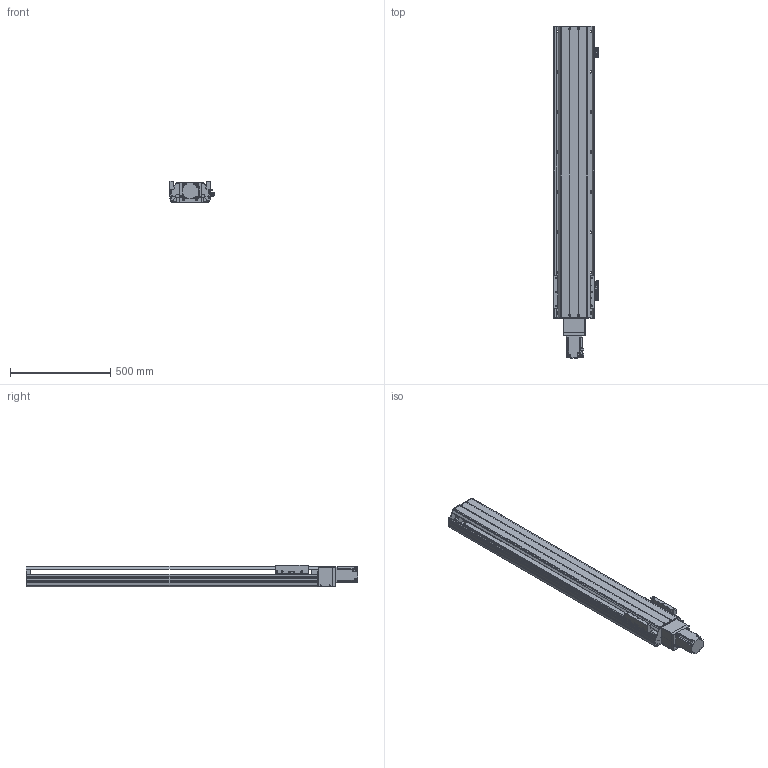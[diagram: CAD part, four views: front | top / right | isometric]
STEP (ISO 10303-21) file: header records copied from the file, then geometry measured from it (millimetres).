
FILE_DESCRIPTION(/* description */ ('MANUFACTURE'),/* implementation_level */ '2;1');
FILE_NAME(/* name */ '\\192.168.0.160\disk1\HAN SHIN Master\B-설계부문\C-표준\B-2024년\BC02-표준도면\+로봇 개선표준도면\홈페이지 표준 도면\홈페이지 최종 작업 폴더\3D\HR\HR200\HG200직렬\HR200-S70-N-1200-R10.stp',/* time_stamp */ '2025-01-18T10:22:50+09:00',/* author */ ('user'),/* organization */ (''),/* preprocessor_version */ 'ST-DEVELOPER v18.1',/* originating_system */ 'Autodesk Inventor 2022',/* authorisation */ 'LIP');
FILE_SCHEMA (('AUTOMOTIVE_DESIGN { 1 0 10303 214 3 1 1 }'));
Length unit declared in the file: millimetre
Products named in the file (16): HR200-S70-W0500-R10; HR200 S BASE-개선; HR180 FRONT BLOCK; HR180 FRONT BLOCK_1; HR200 FRONT COVER; HR120 STOPPER; HR200 SENSOR DOG; HR200 S UPCOVER; HR200 FRONT COVER_1; HR200 TABLE (W,N); COUPLING COVER 400W-R1; hg-kr73_; HG200 S MOTOR PLATE-M; HG200 S MOTOR PLATE-B; SENSOR BRK(EE-SX674A); EE_SX674A
Assembly tree (20 placements, depth 2):
  HR200-S70-W0500-R10
    HR200 S BASE-개선
    HR180 FRONT BLOCK
    HR180 FRONT BLOCK_1
    HR200 FRONT COVER
    HR120 STOPPER  x2
    HR200 SENSOR DOG
    SENSOR BRK(EE-SX674A)  x3
    EE_SX674A  x3
    HR200 S UPCOVER
    HR200 FRONT COVER_1
    HR200 TABLE (W,N)
    COUPLING COVER 400W-R1
    hg-kr73_
    HG200 S MOTOR PLATE-M
    HG200 S MOTOR PLATE-B
Bounding box: 219 x 1652 x 109 mm (x, y, z)
Volume: 9316795.8 mm3; surface area: 2414662.9 mm2
Topology: 20 solids, 20 shells, 1482 faces, 4125 edges, 2707 vertices
Faces by surface type: plane 717, cylinder 655, cone 110
Full cylindrical faces by diameter (mm): 2.459 x26, 3 x4, 3.242 x18, 3.5 x6, 4 x6, 4.134 x8, 4.5 x18, 4.917 x30, 5 x26, 5.5 x4, 5.9 x4, 6 x4, 6.6 x32, 6.647 x26, 7 x4, 7.6 x4, 8 x4, 9 x28, 11 x32, 14 x16, 19 x1, 25 x1, 27 x1, 32 x1, 38 x1, 42 x2, 44.5 x1, 60 x1, 70 x2
Entity records: 45176 total; most frequent: CARTESIAN_POINT 9230, DIRECTION 7335, ORIENTED_EDGE 7162, EDGE_CURVE 3581, AXIS2_PLACEMENT_3D 2592, VERTEX_POINT 2403, LINE 2151, VECTOR 2151
